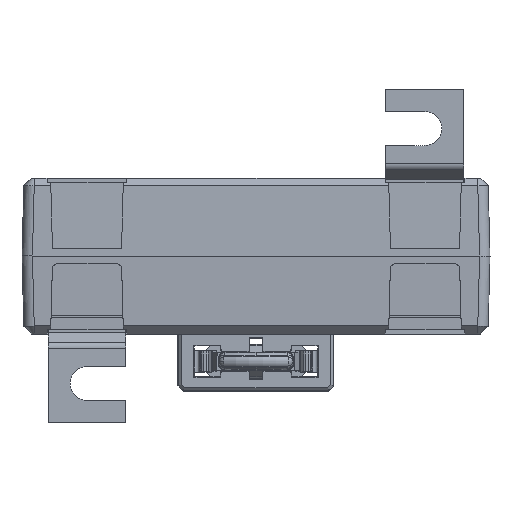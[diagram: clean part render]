
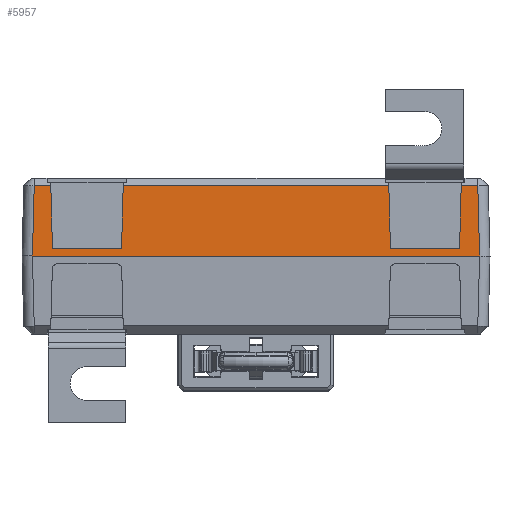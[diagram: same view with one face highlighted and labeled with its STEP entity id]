
A CAD part, front view. The second image highlights one B-rep face of the part: STEP entity #5957.
In plain terms, the highlighted planar face has unit normal (0, -1, 0.026).
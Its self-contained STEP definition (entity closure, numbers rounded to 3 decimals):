
#1254 = EDGE_CURVE ( 'NONE', #144602, #3933, #65286, .T. ) ;
#3933 = VERTEX_POINT ( 'NONE', #120884 ) ;
#5957 = ADVANCED_FACE ( 'NONE', ( #116324 ), #6913, .T. ) ;
#6488 = LINE ( 'NONE', #105549, #152514 ) ;
#6913 = PLANE ( 'NONE',  #113324 ) ;
#7608 = LINE ( 'NONE', #56328, #48519 ) ;
#9429 = VERTEX_POINT ( 'NONE', #92542 ) ;
#11043 = VECTOR ( 'NONE', #52042, 1000. ) ;
#11378 = VECTOR ( 'NONE', #15590, 1000. ) ;
#13019 = ORIENTED_EDGE ( 'NONE', *, *, #116333, .T. ) ;
#14647 = CARTESIAN_POINT ( 'NONE',  ( -39.05, -48.558, -2.199 ) ) ;
#15590 = DIRECTION ( 'NONE',  ( -1., 0., 0. ) ) ;
#18053 = ORIENTED_EDGE ( 'NONE', *, *, #108434, .T. ) ;
#22567 = CARTESIAN_POINT ( 'NONE',  ( -25.854, -48.461, 1.5 ) ) ;
#22810 = ORIENTED_EDGE ( 'NONE', *, *, #122264, .T. ) ;
#22845 = LINE ( 'NONE', #96339, #107706 ) ;
#23641 = CARTESIAN_POINT ( 'NONE',  ( -42.94, -48.44, 2.301 ) ) ;
#25693 = ORIENTED_EDGE ( 'NONE', *, *, #100859, .T. ) ;
#29010 = LINE ( 'NONE', #14647, #76582 ) ;
#31617 = DIRECTION ( 'NONE',  ( -0.026, -0.026, -0.999 ) ) ;
#32641 = CARTESIAN_POINT ( 'NONE',  ( 45., -48.5, 0. ) ) ;
#33151 = ORIENTED_EDGE ( 'NONE', *, *, #50159, .F. ) ;
#33214 = DIRECTION ( 'NONE',  ( 1., 0., 0. ) ) ;
#35584 = LINE ( 'NONE', #132988, #145976 ) ;
#37854 = ORIENTED_EDGE ( 'NONE', *, *, #118813, .T. ) ;
#41466 = VERTEX_POINT ( 'NONE', #22567 ) ;
#41908 = VECTOR ( 'NONE', #150794, 1000. ) ;
#45169 = LINE ( 'NONE', #141810, #63787 ) ;
#45317 = CARTESIAN_POINT ( 'NONE',  ( 39.146, -48.461, 1.5 ) ) ;
#48519 = VECTOR ( 'NONE', #130579, 1000. ) ;
#50159 = EDGE_CURVE ( 'NONE', #93226, #41466, #152010, .T. ) ;
#52042 = DIRECTION ( 'NONE',  ( -0.026, -0.026, -0.999 ) ) ;
#54714 = LINE ( 'NONE', #116186, #11378 ) ;
#56226 = CARTESIAN_POINT ( 'NONE',  ( 45., -48.461, 1.5 ) ) ;
#56328 = CARTESIAN_POINT ( 'NONE',  ( 25.906, -48.513, -0.5 ) ) ;
#59471 = ORIENTED_EDGE ( 'NONE', *, *, #147278, .T. ) ;
#59518 = CARTESIAN_POINT ( 'NONE',  ( 45., -48.5, 0. ) ) ;
#60926 = ORIENTED_EDGE ( 'NONE', *, *, #132999, .F. ) ;
#63679 = CARTESIAN_POINT ( 'NONE',  ( -42.608, -48.146, 13.501 ) ) ;
#63787 = VECTOR ( 'NONE', #31617, 1000. ) ;
#64079 = CARTESIAN_POINT ( 'NONE',  ( 25.854, -48.461, 1.5 ) ) ;
#65286 = LINE ( 'NONE', #63679, #98771 ) ;
#68567 = LINE ( 'NONE', #32641, #41908 ) ;
#69983 = EDGE_CURVE ( 'NONE', #3933, #41466, #111935, .T. ) ;
#75096 = VERTEX_POINT ( 'NONE', #64079 ) ;
#76582 = VECTOR ( 'NONE', #126396, 1000. ) ;
#76755 = CARTESIAN_POINT ( 'NONE',  ( -25.844, -48.451, 1.854 ) ) ;
#85906 = DIRECTION ( 'NONE',  ( 0., -1., 0.026 ) ) ;
#86659 = CARTESIAN_POINT ( 'NONE',  ( -39.461, -48.146, 13.501 ) ) ;
#90283 = CARTESIAN_POINT ( 'NONE',  ( -39.146, -48.461, 1.5 ) ) ;
#92542 = CARTESIAN_POINT ( 'NONE',  ( -43.001, -48.5, 0. ) ) ;
#92680 = EDGE_CURVE ( 'NONE', #145952, #92835, #54714, .T. ) ;
#92835 = VERTEX_POINT ( 'NONE', #144060 ) ;
#93226 = VERTEX_POINT ( 'NONE', #90283 ) ;
#93386 = VERTEX_POINT ( 'NONE', #117993 ) ;
#96339 = CARTESIAN_POINT ( 'NONE',  ( 43.002, -48.501, -0.052 ) ) ;
#98771 = VECTOR ( 'NONE', #114014, 1000. ) ;
#100859 = EDGE_CURVE ( 'NONE', #143578, #115137, #45169, .T. ) ;
#103982 = DIRECTION ( 'NONE',  ( -1., 0., 0. ) ) ;
#104018 = CARTESIAN_POINT ( 'NONE',  ( 25.539, -48.146, 13.501 ) ) ;
#105549 = CARTESIAN_POINT ( 'NONE',  ( -42.608, -48.146, 13.501 ) ) ;
#107706 = VECTOR ( 'NONE', #131467, 1000. ) ;
#108189 = VERTEX_POINT ( 'NONE', #114541 ) ;
#108434 = EDGE_CURVE ( 'NONE', #108189, #143578, #6488, .T. ) ;
#108768 = EDGE_LOOP ( 'NONE', ( #33151, #22810, #118989, #59471, #155363, #37854, #18053, #25693, #60926, #13019, #118167, #146619 ) ) ;
#111935 = LINE ( 'NONE', #76755, #11043 ) ;
#113324 = AXIS2_PLACEMENT_3D ( 'NONE', #59518, #85906, #122625 ) ;
#114014 = DIRECTION ( 'NONE',  ( -1., 0., 0. ) ) ;
#114541 = CARTESIAN_POINT ( 'NONE',  ( 42.647, -48.146, 13.501 ) ) ;
#115137 = VERTEX_POINT ( 'NONE', #45317 ) ;
#116186 = CARTESIAN_POINT ( 'NONE',  ( -42.608, -48.146, 13.501 ) ) ;
#116324 = FACE_OUTER_BOUND ( 'NONE', #108768, .T. ) ;
#116333 = EDGE_CURVE ( 'NONE', #75096, #144602, #7608, .T. ) ;
#117993 = CARTESIAN_POINT ( 'NONE',  ( 43.001, -48.5, 0. ) ) ;
#118167 = ORIENTED_EDGE ( 'NONE', *, *, #1254, .T. ) ;
#118813 = EDGE_CURVE ( 'NONE', #93386, #108189, #22845, .T. ) ;
#118989 = ORIENTED_EDGE ( 'NONE', *, *, #92680, .T. ) ;
#119967 = VECTOR ( 'NONE', #140090, 1000. ) ;
#120884 = CARTESIAN_POINT ( 'NONE',  ( -25.539, -48.146, 13.501 ) ) ;
#122264 = EDGE_CURVE ( 'NONE', #93226, #145952, #29010, .T. ) ;
#122625 = DIRECTION ( 'NONE',  ( 0., -0.026, -1. ) ) ;
#126396 = DIRECTION ( 'NONE',  ( -0.026, 0.026, 0.999 ) ) ;
#130579 = DIRECTION ( 'NONE',  ( -0.026, 0.026, 0.999 ) ) ;
#131467 = DIRECTION ( 'NONE',  ( -0.026, 0.026, 0.999 ) ) ;
#132988 = CARTESIAN_POINT ( 'NONE',  ( 45., -48.461, 1.5 ) ) ;
#132999 = EDGE_CURVE ( 'NONE', #75096, #115137, #35584, .T. ) ;
#140090 = DIRECTION ( 'NONE',  ( 1., 0., 0. ) ) ;
#141810 = CARTESIAN_POINT ( 'NONE',  ( 39.111, -48.496, 0.154 ) ) ;
#141823 = EDGE_CURVE ( 'NONE', #9429, #93386, #68567, .T. ) ;
#143578 = VERTEX_POINT ( 'NONE', #157691 ) ;
#144060 = CARTESIAN_POINT ( 'NONE',  ( -42.647, -48.146, 13.501 ) ) ;
#144602 = VERTEX_POINT ( 'NONE', #104018 ) ;
#145952 = VERTEX_POINT ( 'NONE', #86659 ) ;
#145976 = VECTOR ( 'NONE', #33214, 1000. ) ;
#146619 = ORIENTED_EDGE ( 'NONE', *, *, #69983, .T. ) ;
#147278 = EDGE_CURVE ( 'NONE', #92835, #9429, #154591, .T. ) ;
#150794 = DIRECTION ( 'NONE',  ( 1., 0., 0. ) ) ;
#152010 = LINE ( 'NONE', #56226, #119967 ) ;
#152514 = VECTOR ( 'NONE', #103982, 1000. ) ;
#153452 = VECTOR ( 'NONE', #157729, 1000. ) ;
#154591 = LINE ( 'NONE', #23641, #153452 ) ;
#155363 = ORIENTED_EDGE ( 'NONE', *, *, #141823, .T. ) ;
#157691 = CARTESIAN_POINT ( 'NONE',  ( 39.461, -48.146, 13.501 ) ) ;
#157729 = DIRECTION ( 'NONE',  ( -0.026, -0.026, -0.999 ) ) ;
